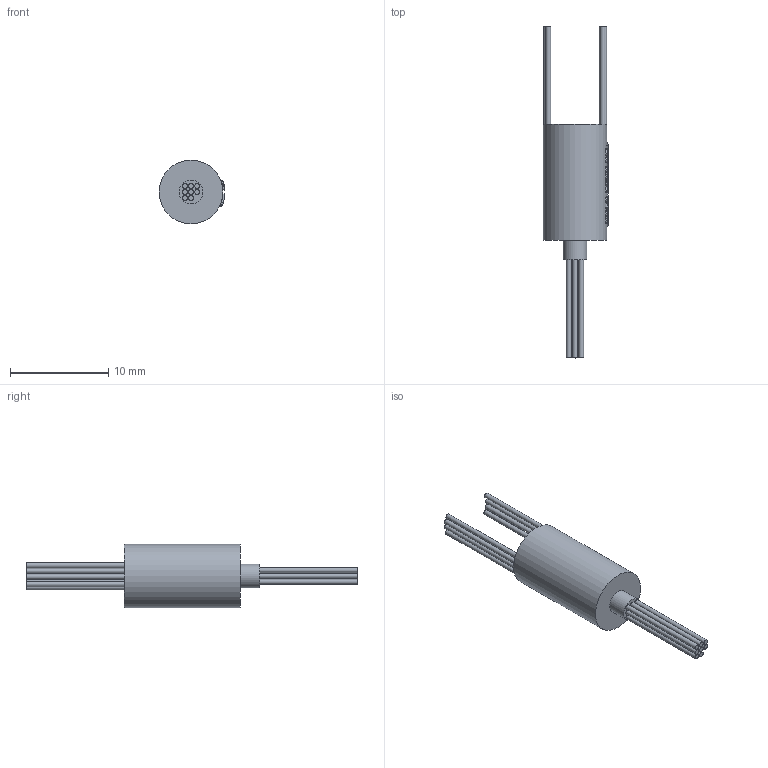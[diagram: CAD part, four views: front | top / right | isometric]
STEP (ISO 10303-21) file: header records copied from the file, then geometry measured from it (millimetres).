
FILE_DESCRIPTION(/* description */ (''),/* implementation_level */ '2;1');
FILE_NAME(/* name */ 'YM07-08.stp',/* time_stamp */ '2025-09-05T09:31:32+08:00',/* author */ (''),/* organization */ (''),/* preprocessor_version */ 'ST-DEVELOPER v16.7',/* originating_system */ 'SIEMENS PLM Software NX 12.0',/* authorisation */ '');
FILE_SCHEMA (('AUTOMOTIVE_DESIGN { 1 0 10303 214 3 1 1 1 }'));
Length unit declared in the file: millimetre
Products named in the file (1): Admi30D0F0663at6
Bounding box: 6.69 x 33.8 x 6.5 mm (x, y, z)
Volume: 433 mm3; surface area: 596 mm2
Topology: 1 solids, 1 shells, 718 faces, 1962 edges, 1308 vertices
Faces by surface type: extrusion 450, plane 205, cylinder 34, bspline 29
Full cylindrical faces by diameter (mm): 0.5 x16, 2.4 x1, 6.5 x1
Entity records: 30397 total; most frequent: CARTESIAN_POINT 15453, ORIENTED_EDGE 3888, B_SPLINE_CURVE_WITH_KNOTS 2116, EDGE_CURVE 1944, DIRECTION 1374, VERTEX_POINT 1308, EDGE_LOOP 798, ADVANCED_FACE 718
